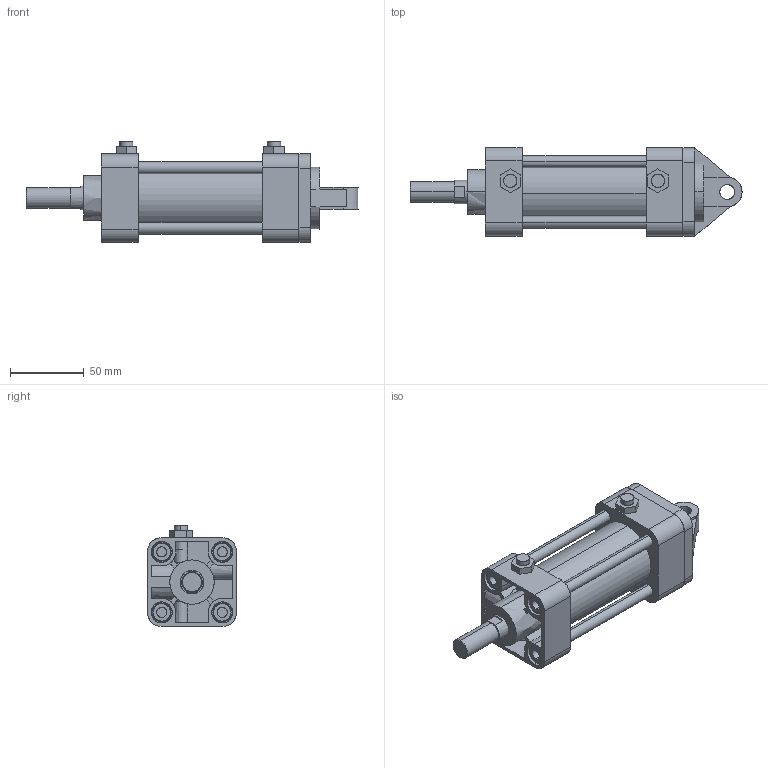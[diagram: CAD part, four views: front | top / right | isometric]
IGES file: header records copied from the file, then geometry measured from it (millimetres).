
Start section: SolidWorks IGES file using analytic representation for surfaces
Global section: file name: C:\Users\Toshiba\Desktop\KG2-40-50-C.IGS; native system: SolidWorks 2014; preprocessor: SolidWorks 2014; author: Toshiba; date: 160401.160848; units: millimetre
Bounding box: 225 x 60 x 68.3 mm (x, y, z)
Surface area: 96557.8 mm2 (no closed solid volume)
Topology: 0 solids, 0 shells, 398 faces, 5803 edges, 5769 vertices
Faces by surface type: revolution 204, bspline 194
